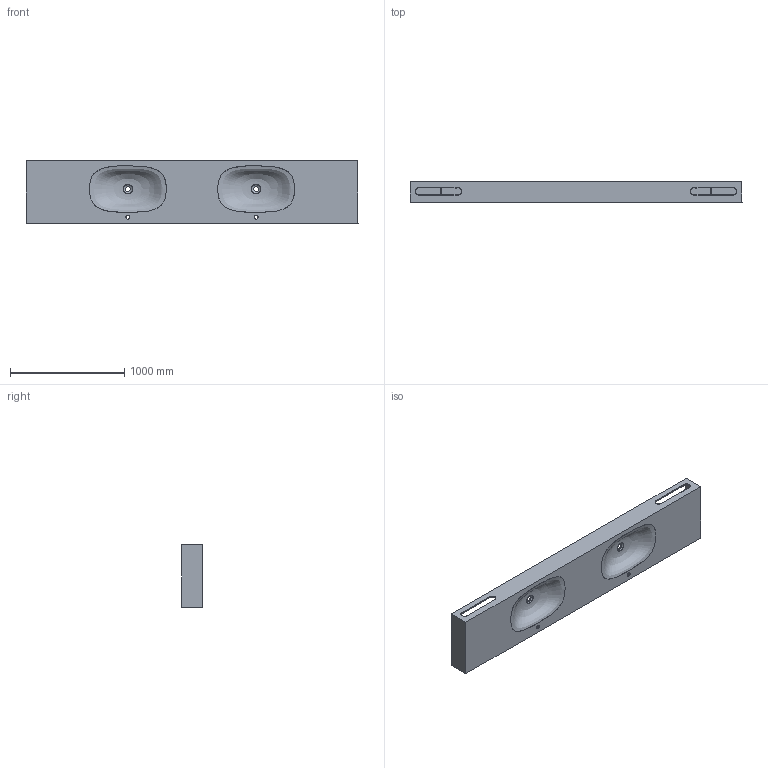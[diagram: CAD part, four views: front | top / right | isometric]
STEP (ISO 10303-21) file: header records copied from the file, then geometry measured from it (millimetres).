
FILE_DESCRIPTION (( 'STEP AP214' ), '1' );
FILE_NAME ('TRINITY-E D 2900.STEP', '2024-05-10T08:55:25', ( '' ), ( '' ), 'SwSTEP 2.0', 'SolidWorks 2021', '' );
FILE_SCHEMA (( 'AUTOMOTIVE_DESIGN' ));
Length unit declared in the file: millimetre
Products named in the file (7): CAD-00001835_2900; CAD-00001834; CAD-00001832_2900; CAD-00001837; CAD-00001833_2900; TRINITY-E D 2900; CAD-00001831_2900
Assembly tree (14 placements, depth 2):
  TRINITY-E D 2900
    CAD-00001831_2900
    CAD-00001832_2900
    CAD-00001833_2900
    CAD-00001834  x2
    CAD-00001835_2900
    CAD-00001837  x8
Bounding box: 2900 x 180 x 550 mm (x, y, z)
Volume: 41826295.8 mm3; surface area: 7434812.3 mm2
Topology: 16 solids, 16 shells, 182 faces, 434 edges, 282 vertices
Faces by surface type: plane 106, cylinder 54, bspline 10, torus 8, cone 4
Full cylindrical faces by diameter (mm): 11 x20, 35 x2, 47.09 x2, 80 x2
Entity records: 74194 total; most frequent: CARTESIAN_POINT 71455, DIRECTION 510, ORIENTED_EDGE 412, EDGE_CURVE 206, AXIS2_PLACEMENT_3D 203, EDGE_LOOP 200, VERTEX_POINT 154, FACE_OUTER_BOUND 142
